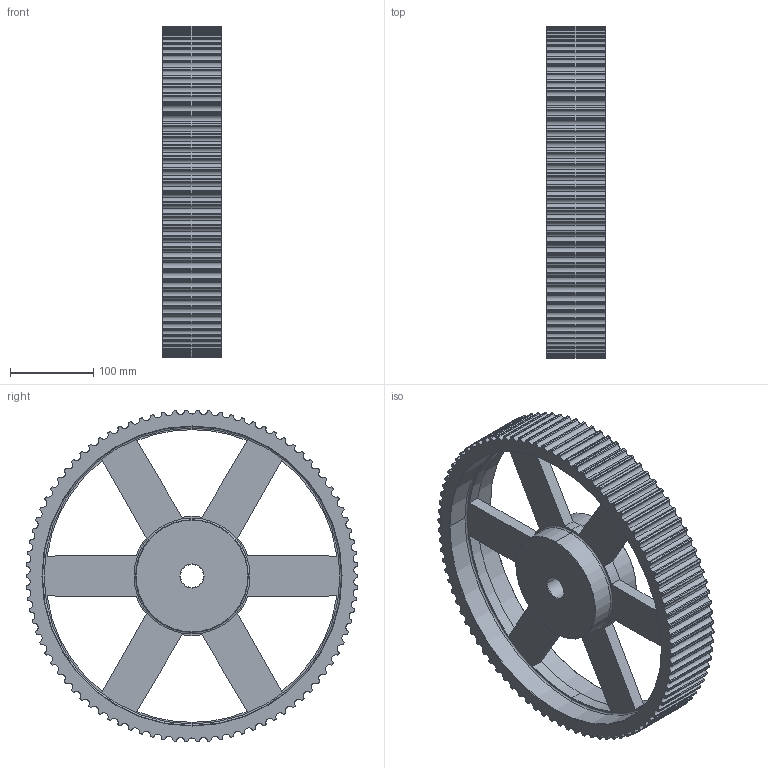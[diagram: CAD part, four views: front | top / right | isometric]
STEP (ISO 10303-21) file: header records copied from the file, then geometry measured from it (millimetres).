
FILE_DESCRIPTION(('STEP AP214'),'1');
FILE_NAME('90_-_14_m_55.stp','2018-03-26T04:57:02',('TraceParts'),('TraceParts S.A.'),'Spatial InterOp 3D',' ',' ');
FILE_SCHEMA(('automotive_design'));
Length unit declared in the file: millimetre
Products named in the file (1): 90_-_14_m_55
Bounding box: 70 x 398.28 x 398.11 mm (x, y, z)
Volume: 2875499.7 mm3; surface area: 378919.1 mm2
Topology: 1 solids, 1 shells, 514 faces, 1512 edges, 1004 vertices
Faces by surface type: cylinder 476, plane 18, cone 12, torus 8
Entity records: 17751 total; most frequent: DIRECTION 3530, CARTESIAN_POINT 3031, ORIENTED_EDGE 3024, EDGE_CURVE 1512, AXIS2_PLACEMENT_3D 1503, VERTEX_POINT 1004, CIRCLE 988, EDGE_LOOP 532
